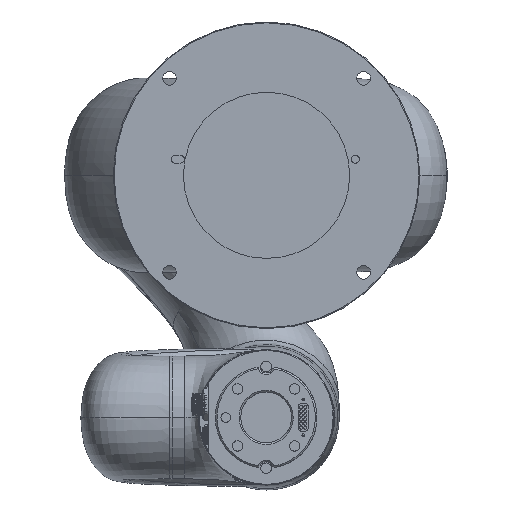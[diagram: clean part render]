
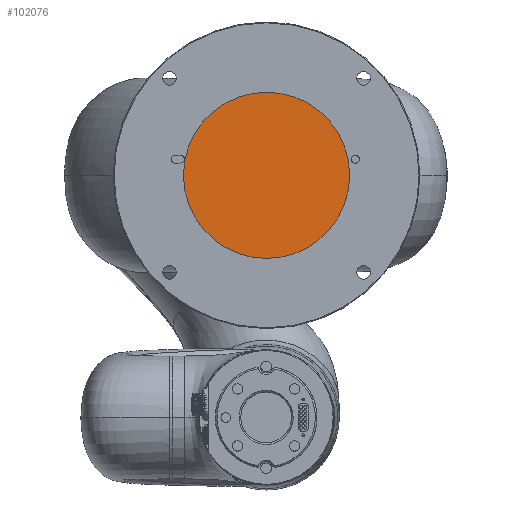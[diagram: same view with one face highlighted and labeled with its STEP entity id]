
A CAD part, front view. The second image highlights one B-rep face of the part: STEP entity #102076.
In plain terms, the highlighted planar face has unit normal (0, -1, 0).
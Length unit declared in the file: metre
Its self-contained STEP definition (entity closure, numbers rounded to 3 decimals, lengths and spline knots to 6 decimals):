
#6988 = EDGE_LOOP ( 'NONE', ( #50019, #85666 ) ) ;
#8274 = CARTESIAN_POINT ( 'NONE',  ( -0.069373, 0.11548, 0.028115 ) ) ;
#8923 = CARTESIAN_POINT ( 'NONE',  ( -0.076784, 0.11548, 0.079079 ) ) ;
#9268 = PLANE ( 'NONE',  #14934 ) ;
#14934 = AXIS2_PLACEMENT_3D ( 'NONE', #31120, #96676, #107630 ) ;
#29189 = DIRECTION ( 'NONE',  ( -0.144, 0., 0.99 ) ) ;
#29262 = EDGE_CURVE ( 'NONE', #95604, #100884, #42105, .T. ) ;
#29905 = AXIS2_PLACEMENT_3D ( 'NONE', #79293, #102585, #101138 ) ;
#31120 = CARTESIAN_POINT ( 'NONE',  ( -0.069373, 0.11548, 0.028115 ) ) ;
#40123 = DIRECTION ( 'NONE',  ( 0., -1., 0. ) ) ;
#42105 = CIRCLE ( 'NONE', #99595, 0.0515 ) ;
#45346 = FACE_OUTER_BOUND ( 'NONE', #6988, .T. ) ;
#50019 = ORIENTED_EDGE ( 'NONE', *, *, #113720, .T. ) ;
#78493 = CIRCLE ( 'NONE', #29905, 0.0515 ) ;
#79293 = CARTESIAN_POINT ( 'NONE',  ( -0.069373, 0.11548, 0.028115 ) ) ;
#85666 = ORIENTED_EDGE ( 'NONE', *, *, #29262, .T. ) ;
#95604 = VERTEX_POINT ( 'NONE', #112022 ) ;
#96676 = DIRECTION ( 'NONE',  ( 0., -1., 0. ) ) ;
#99595 = AXIS2_PLACEMENT_3D ( 'NONE', #8274, #40123, #29189 ) ;
#100884 = VERTEX_POINT ( 'NONE', #8923 ) ;
#101138 = DIRECTION ( 'NONE',  ( -0.144, 0., 0.99 ) ) ;
#102076 = ADVANCED_FACE ( 'NONE', ( #45346 ), #9268, .T. ) ;
#102585 = DIRECTION ( 'NONE',  ( 0., -1., 0. ) ) ;
#107630 = DIRECTION ( 'NONE',  ( 0., 0., -1. ) ) ;
#112022 = CARTESIAN_POINT ( 'NONE',  ( -0.061961, 0.11548, -0.022849 ) ) ;
#113720 = EDGE_CURVE ( 'NONE', #100884, #95604, #78493, .T. ) ;
